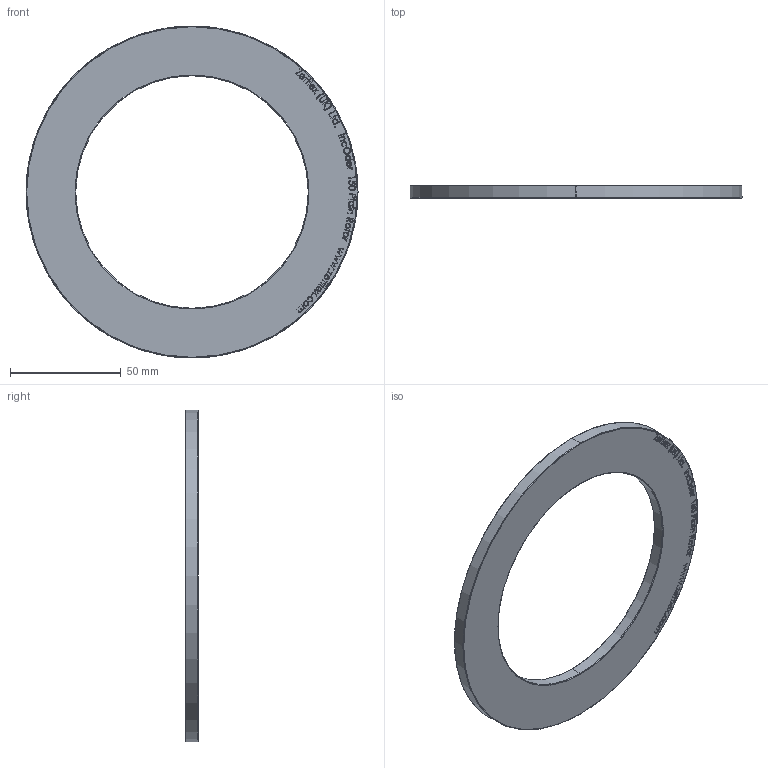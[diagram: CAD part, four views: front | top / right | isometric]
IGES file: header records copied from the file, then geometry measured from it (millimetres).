
Start section: SolidWorks IGES file using analytic representation for surfaces
Global section: file name: C:\Zettlex Data\Mechanical Drawings\1011\150 Plain Rotor Rev 1-4.IGS; native system: SolidWorks 2015; preprocessor: SolidWorks 2015; author: Nigel; date: 150902.105047; units: millimetre
Bounding box: 150 x 5.6 x 150 mm (x, y, z)
Surface area: 22453 mm2 (no closed solid volume)
Topology: 0 solids, 0 shells, 604 faces, 6850 edges, 6850 vertices
Faces by surface type: bspline 594, revolution 10
